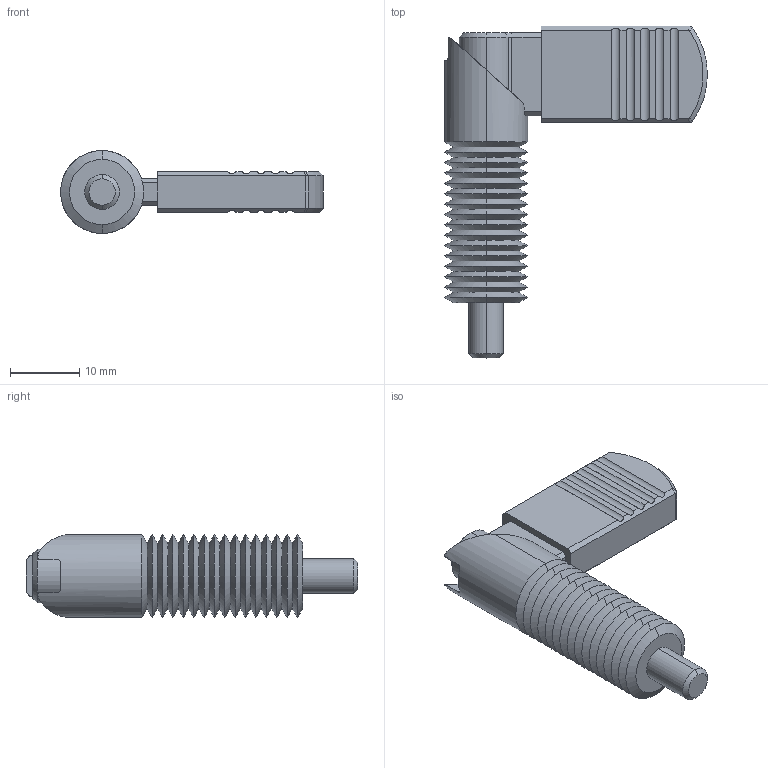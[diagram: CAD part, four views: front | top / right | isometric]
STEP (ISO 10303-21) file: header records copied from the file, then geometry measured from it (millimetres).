
FILE_DESCRIPTION (( 'STEP AP203' ), '1' );
FILE_NAME ('32501.W0363.step', '2016-02-10T17:21:50', ( 'User' ), ( '' ), 'SwSTEP 2.0', 'SolidWorks 2009', '' );
FILE_SCHEMA (( 'CONFIG_CONTROL_DESIGN' ));
Length unit declared in the file: millimetre
Products named in the file (4): Part1_32501.W0363; 32501.W0363; Part2_32501.W0363; Part3_32501.W0363
Assembly tree (3 placements, depth 2):
  32501.W0363
    Part3_32501.W0363
    Part1_32501.W0363
    Part2_32501.W0363
Bounding box: 38 x 48 x 12 mm (x, y, z)
Volume: 4220.7 mm3; surface area: 6094.1 mm2
Topology: 3 solids, 3 shells, 192 faces, 457 edges, 275 vertices
Faces by surface type: cone 79, cylinder 55, plane 54, bspline 4
Entity records: 6004 total; most frequent: CARTESIAN_POINT 1336, ORIENTED_EDGE 914, DIRECTION 876, EDGE_CURVE 457, AXIS2_PLACEMENT_3D 315, VERTEX_POINT 275, VECTOR 246, LINE 246
